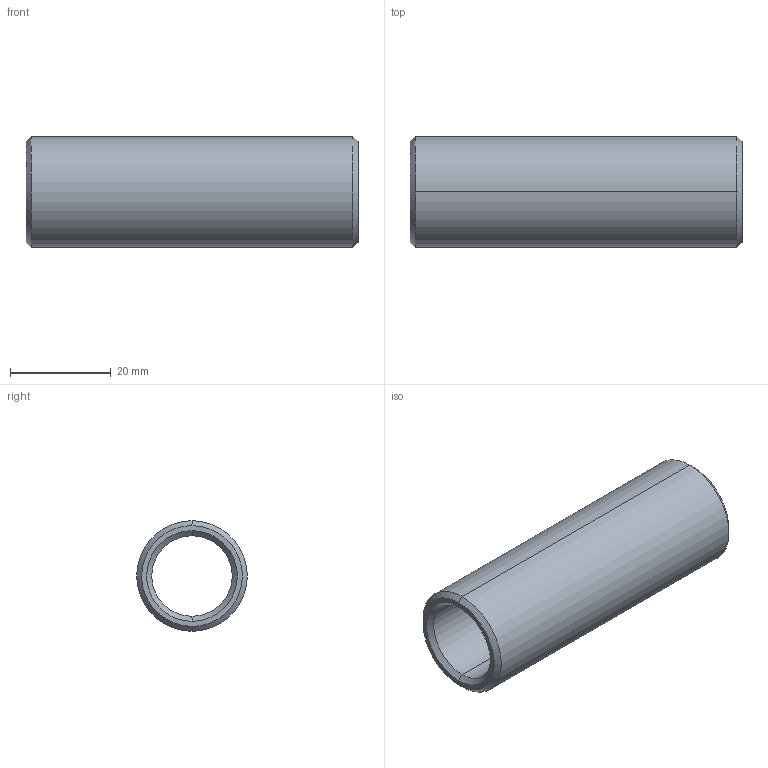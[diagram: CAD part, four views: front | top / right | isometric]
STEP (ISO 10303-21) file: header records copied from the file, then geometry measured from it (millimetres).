
FILE_DESCRIPTION(('CATIA V5 STEP Exchange'),'2;1');
FILE_NAME('C:\Users\Utente\Desktop\IO LAVORO\3D X SITO CF\X SITO\PLASTICA\352\352-16X66.stp','2021-04-10T09:03:26+00:00',('none'),('none'),'CATIA Version 5 Release 20 GA (IN-10)','CATIA V5 STEP AP203','none');
FILE_SCHEMA(('CONFIG_CONTROL_DESIGN'));
Length unit declared in the file: millimetre
Products named in the file (1): 352-16X66
Bounding box: 66 x 22 x 22 mm (x, y, z)
Volume: 11714.4 mm3; surface area: 8104.4 mm2
Topology: 1 solids, 1 shells, 14 faces, 44 edges, 32 vertices
Faces by surface type: cone 6, cylinder 4, plane 2, torus 2
Entity records: 634 total; most frequent: CARTESIAN_POINT 203, ORIENTED_EDGE 88, DIRECTION 64, EDGE_CURVE 44, AXIS2_PLACEMENT_3D 41, VERTEX_POINT 32, CIRCLE 26, EDGE_LOOP 16
